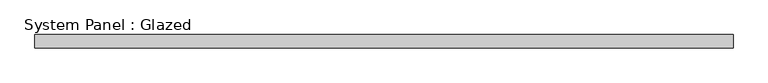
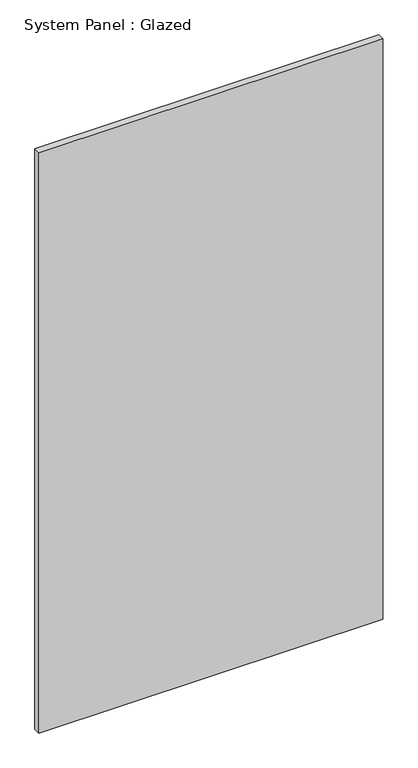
"""IFC4 building model written with IfcOpenShell, lengths in millimetres: plate geometry, System Panel : Glazed."""

from ifc_helpers import new_model, si_unit, origin, origin_with_axes, place, context, project, spatial, polyline, outline, extrude, source, transform, mapped, element, save


def system_panel_glazed_df259216(model_context):
    return source(origin(), model_context, "Body", "SweptSolid", [
        extrude(outline(polyline([(651.6601177, -49.5), (-651.6601177, -49.5), (-651.6601177, -24.5), (651.6601177, -24.5), (651.6601177, -49.5)])), origin_with_axes(), (0.0, 0.0, 1.0), 2325.0),
    ])


if __name__ == "__main__":
    model = new_model("IFC4")
    model_context = context("Model", 3, world=origin())
    ifc_project = project(units=[si_unit("LENGTHUNIT", "METRE", prefix="MILLI")], contexts=[model_context])
    site = spatial("IfcSite", under=ifc_project)
    building = spatial("IfcBuilding", under=site)
    placement = place(None, origin())
    system_panel_glazed_shape = system_panel_glazed_df259216(model_context)
    element("IfcPlate", 1, ObjectType="System Panel : Glazed", at=placement, inside=building, context=model_context, shape_type="MappedRepresentation", body=[
        mapped(system_panel_glazed_shape, transform((0.0, 0.0, 0.0), x_axis=(1.0, 0.0, 0.0), y_axis=(0.0, 1.0, 0.0), z_axis=(0.0, 0.0, 1.0))),
    ])
    save(model, "model.ifc")
